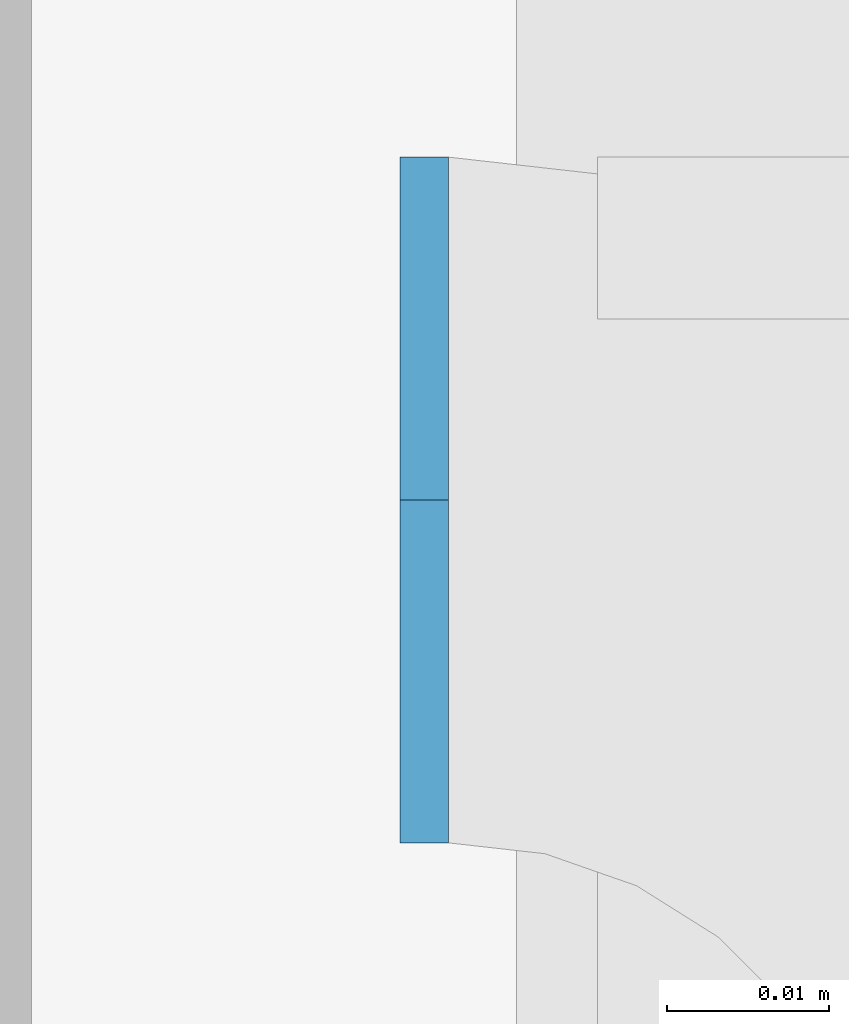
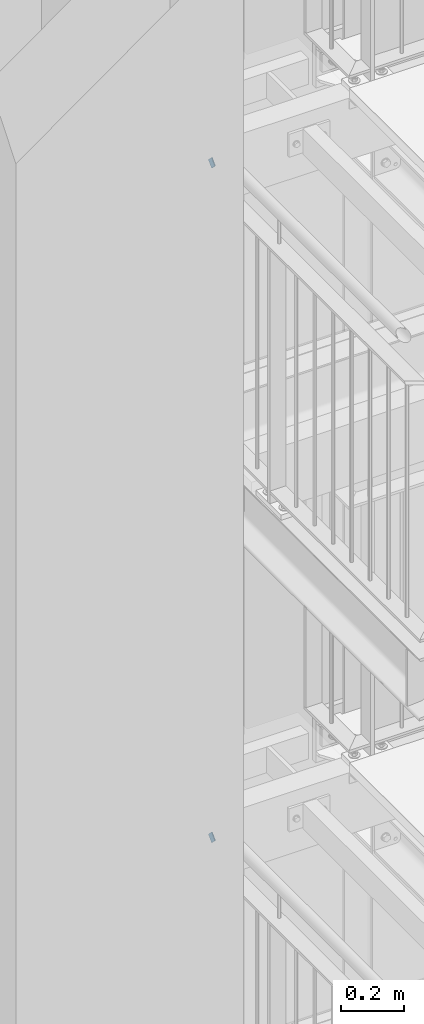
# One storey, part 224 of 831: 2 plates, 8 openings.
"""IFC2X3 building model written with IfcOpenShell, lengths in millimetres."""

from ifc_helpers import new_model, entity, si_unit, converted_unit, point, frame, frame_2d, origin, origin_with_axes, place, context, project, spatial, polyline, circle_curve, line_curve, trimmed, segment, composite_curve, outline, extrude, material, layer, layer_set, element, save


model = new_model("IFC2X3")

# Units and contexts
model_context = context("Model", 3, precision=1e-09, world=origin_with_axes())
ifc_project = project(units=[si_unit("LENGTHUNIT", "METRE", prefix="MILLI"), si_unit("AREAUNIT", "SQUARE_METRE"), si_unit("VOLUMEUNIT", "CUBIC_METRE"), converted_unit("PLANEANGLEUNIT", "DEGREE", entity("IfcPlaneAngleMeasure", 0.01745329), si_unit("PLANEANGLEUNIT", "RADIAN"), dimensions=[0, 0, 0, 0, 0, 0, 0])], contexts=[model_context])

# Site, building, storey
site_placement = place(None, origin_with_axes())
site = spatial("IfcSite", under=ifc_project, at=site_placement, Name="Site", CompositionType="ELEMENT")
building_placement = place(site_placement, origin_with_axes())
building = spatial("IfcBuilding", under=site, at=building_placement, Name="Struktur 1", CompositionType="ELEMENT")
storey_placement = place(building_placement, origin_with_axes())
storey = spatial("IfcBuildingStorey", under=building, at=storey_placement, Name="Default Storey", CompositionType="ELEMENT", Elevation=0.0)

# Plate, openings
ifc_material = material(Name="S235JR")
ifc_layer = layer(ifc_material, 3.0)
ifc_layer_set = layer_set([ifc_layer], Name="S235JR")
plate_1_placement = place(None, frame((3232.513402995, 5783.18329849, 13719.000000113), z_axis=(-1.0, 0.0, 0.0), x_axis=(0.0, 0.0, 1.0)))
plate_1 = element("IfcPlate", 1, at=plate_1_placement, inside=storey, material=ifc_layer_set, Name="-", ObjectType="-", context=model_context, shape_type="SweptSolid", body=[
    extrude(outline(polyline([(21.2, 0.0), (21.2, 42.4), (-21.2, 42.4), (-21.2, 0.0), (21.2, 0.0)])), origin_with_axes(), (0.0, 0.0, 1.0), 3.0),
])
opening_1_placement = place(plate_1_placement, frame((0.0, 0.0, -0.01), z_axis=(0.0, 0.0, 1.0), x_axis=(1.0, 0.0, 0.0)))
element("IfcOpeningElement", 2, at=opening_1_placement, cuts=plate_1, ObjectType="Opening", context=model_context, shape_type="SweptSolid", body=[
    extrude(outline(composite_curve([segment(trimmed(line_curve((21.2, 0.0), (0.0, 1.0), 21.2), [point((21.2, 0.0))], [point((21.2, 21.2))], True, "CARTESIAN"), True, "CONTINUOUS"), segment(trimmed(circle_curve(frame_2d((0.0, 21.2), x_axis=(-1.0, 0.0)), 21.2), [point((21.2, 21.2))], [point((0.0, 0.0))], False, "CARTESIAN"), True, "CONTINUOUS"), segment(trimmed(line_curve((0.0, 0.0), (1.0, 0.0), 21.2), [point((0.0, 0.0))], [point((21.2, 0.0))], True, "CARTESIAN"), True, "CONTINUOUS")], self_intersect=False)), origin(), (0.0, 0.0, 1.0), 3.02),
])
opening_2_placement = place(plate_1_placement, frame((0.0, 0.0, -0.01), z_axis=(0.0, 0.0, 1.0), x_axis=(1.0, 0.0, 0.0)))
element("IfcOpeningElement", 3, at=opening_2_placement, cuts=plate_1, ObjectType="Opening", context=model_context, shape_type="SweptSolid", body=[
    extrude(outline(composite_curve([segment(trimmed(line_curve((21.2, 42.4), (-1.0, 0.0), 21.2), [point((21.2, 42.4))], [point((0.0, 42.4))], True, "CARTESIAN"), True, "CONTINUOUS"), segment(trimmed(circle_curve(frame_2d((0.0, 21.2), x_axis=(-1.0, 0.0)), 21.2), [point((0.0, 42.4))], [point((21.2, 21.2))], False, "CARTESIAN"), True, "CONTINUOUS"), segment(trimmed(line_curve((21.2, 21.2), (0.0, 1.0), 21.2), [point((21.2, 21.2))], [point((21.2, 42.4))], True, "CARTESIAN"), True, "CONTINUOUS")], self_intersect=False)), origin(), (0.0, 0.0, 1.0), 3.02),
])
opening_3_placement = place(plate_1_placement, frame((0.0, 0.0, -0.01), z_axis=(0.0, 0.0, 1.0), x_axis=(1.0, 0.0, 0.0)))
element("IfcOpeningElement", 4, at=opening_3_placement, cuts=plate_1, ObjectType="Opening", context=model_context, shape_type="SweptSolid", body=[
    extrude(outline(composite_curve([segment(trimmed(line_curve((-21.2, 42.4), (0.0, -1.0), 21.2), [point((-21.2, 42.4))], [point((-21.2, 21.2))], True, "CARTESIAN"), True, "CONTINUOUS"), segment(trimmed(circle_curve(frame_2d((0.0, 21.2), x_axis=(-1.0, 0.0)), 21.2), [point((-21.2, 21.2))], [point((0.0, 42.4))], False, "CARTESIAN"), True, "CONTINUOUS"), segment(trimmed(line_curve((0.0, 42.4), (-1.0, 0.0), 21.2), [point((0.0, 42.4))], [point((-21.2, 42.4))], True, "CARTESIAN"), True, "CONTINUOUS")], self_intersect=False)), origin(), (0.0, 0.0, 1.0), 3.02),
])
opening_4_placement = place(plate_1_placement, frame((0.0, 0.0, -0.01), z_axis=(0.0, 0.0, 1.0), x_axis=(1.0, 0.0, 0.0)))
element("IfcOpeningElement", 5, at=opening_4_placement, cuts=plate_1, ObjectType="Opening", context=model_context, shape_type="SweptSolid", body=[
    extrude(outline(composite_curve([segment(trimmed(line_curve((-21.2, 0.0), (1.0, 0.0), 21.2), [point((-21.2, 0.0))], [point((0.0, 0.0))], True, "CARTESIAN"), True, "CONTINUOUS"), segment(trimmed(circle_curve(frame_2d((0.0, 21.2), x_axis=(-1.0, 0.0)), 21.2), [point((0.0, 0.0))], [point((-21.2, 21.2))], False, "CARTESIAN"), True, "CONTINUOUS"), segment(trimmed(line_curve((-21.2, 21.2), (0.0, -1.0), 21.2), [point((-21.2, 21.2))], [point((-21.2, 0.0))], True, "CARTESIAN"), True, "CONTINUOUS")], self_intersect=False)), origin(), (0.0, 0.0, 1.0), 3.02),
])

plate_2_placement = place(None, frame((3232.513402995, 5783.18329849, 11092.000000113), z_axis=(-1.0, 0.0, 0.0), x_axis=(0.0, 0.0, 1.0)))
plate_2 = element("IfcPlate", 6, at=plate_2_placement, inside=storey, material=ifc_layer_set, Name="-", ObjectType="-", context=model_context, shape_type="SweptSolid", body=[
    extrude(outline(polyline([(21.2, 0.0), (21.2, 42.4), (-21.2, 42.4), (-21.2, 0.0), (21.2, 0.0)])), origin_with_axes(), (0.0, 0.0, 1.0), 3.0),
])
opening_5_placement = place(plate_2_placement, frame((0.0, 0.0, -0.01), z_axis=(0.0, 0.0, 1.0), x_axis=(1.0, 0.0, 0.0)))
element("IfcOpeningElement", 7, at=opening_5_placement, cuts=plate_2, ObjectType="Opening", context=model_context, shape_type="SweptSolid", body=[
    extrude(outline(composite_curve([segment(trimmed(line_curve((21.2, 0.0), (0.0, 1.0), 21.2), [point((21.2, 0.0))], [point((21.2, 21.2))], True, "CARTESIAN"), True, "CONTINUOUS"), segment(trimmed(circle_curve(frame_2d((0.0, 21.2), x_axis=(-1.0, 0.0)), 21.2), [point((21.2, 21.2))], [point((0.0, 0.0))], False, "CARTESIAN"), True, "CONTINUOUS"), segment(trimmed(line_curve((0.0, 0.0), (1.0, 0.0), 21.2), [point((0.0, 0.0))], [point((21.2, 0.0))], True, "CARTESIAN"), True, "CONTINUOUS")], self_intersect=False)), origin(), (0.0, 0.0, 1.0), 3.02),
])
opening_6_placement = place(plate_2_placement, frame((0.0, 0.0, -0.01), z_axis=(0.0, 0.0, 1.0), x_axis=(1.0, 0.0, 0.0)))
element("IfcOpeningElement", 8, at=opening_6_placement, cuts=plate_2, ObjectType="Opening", context=model_context, shape_type="SweptSolid", body=[
    extrude(outline(composite_curve([segment(trimmed(line_curve((21.2, 42.4), (-1.0, 0.0), 21.2), [point((21.2, 42.4))], [point((0.0, 42.4))], True, "CARTESIAN"), True, "CONTINUOUS"), segment(trimmed(circle_curve(frame_2d((0.0, 21.2), x_axis=(-1.0, 0.0)), 21.2), [point((0.0, 42.4))], [point((21.2, 21.2))], False, "CARTESIAN"), True, "CONTINUOUS"), segment(trimmed(line_curve((21.2, 21.2), (0.0, 1.0), 21.2), [point((21.2, 21.2))], [point((21.2, 42.4))], True, "CARTESIAN"), True, "CONTINUOUS")], self_intersect=False)), origin(), (0.0, 0.0, 1.0), 3.02),
])
opening_7_placement = place(plate_2_placement, frame((0.0, 0.0, -0.01), z_axis=(0.0, 0.0, 1.0), x_axis=(1.0, 0.0, 0.0)))
element("IfcOpeningElement", 9, at=opening_7_placement, cuts=plate_2, ObjectType="Opening", context=model_context, shape_type="SweptSolid", body=[
    extrude(outline(composite_curve([segment(trimmed(line_curve((-21.2, 42.4), (0.0, -1.0), 21.2), [point((-21.2, 42.4))], [point((-21.2, 21.2))], True, "CARTESIAN"), True, "CONTINUOUS"), segment(trimmed(circle_curve(frame_2d((0.0, 21.2), x_axis=(-1.0, 0.0)), 21.2), [point((-21.2, 21.2))], [point((0.0, 42.4))], False, "CARTESIAN"), True, "CONTINUOUS"), segment(trimmed(line_curve((0.0, 42.4), (-1.0, 0.0), 21.2), [point((0.0, 42.4))], [point((-21.2, 42.4))], True, "CARTESIAN"), True, "CONTINUOUS")], self_intersect=False)), origin(), (0.0, 0.0, 1.0), 3.02),
])
opening_8_placement = place(plate_2_placement, frame((0.0, 0.0, -0.01), z_axis=(0.0, 0.0, 1.0), x_axis=(1.0, 0.0, 0.0)))
element("IfcOpeningElement", 10, at=opening_8_placement, cuts=plate_2, ObjectType="Opening", context=model_context, shape_type="SweptSolid", body=[
    extrude(outline(composite_curve([segment(trimmed(line_curve((-21.2, 0.0), (1.0, 0.0), 21.2), [point((-21.2, 0.0))], [point((0.0, 0.0))], True, "CARTESIAN"), True, "CONTINUOUS"), segment(trimmed(circle_curve(frame_2d((0.0, 21.2), x_axis=(-1.0, 0.0)), 21.2), [point((0.0, 0.0))], [point((-21.2, 21.2))], False, "CARTESIAN"), True, "CONTINUOUS"), segment(trimmed(line_curve((-21.2, 21.2), (0.0, -1.0), 21.2), [point((-21.2, 21.2))], [point((-21.2, 0.0))], True, "CARTESIAN"), True, "CONTINUOUS")], self_intersect=False)), origin(), (0.0, 0.0, 1.0), 3.02),
])

save(model, "model.ifc")
